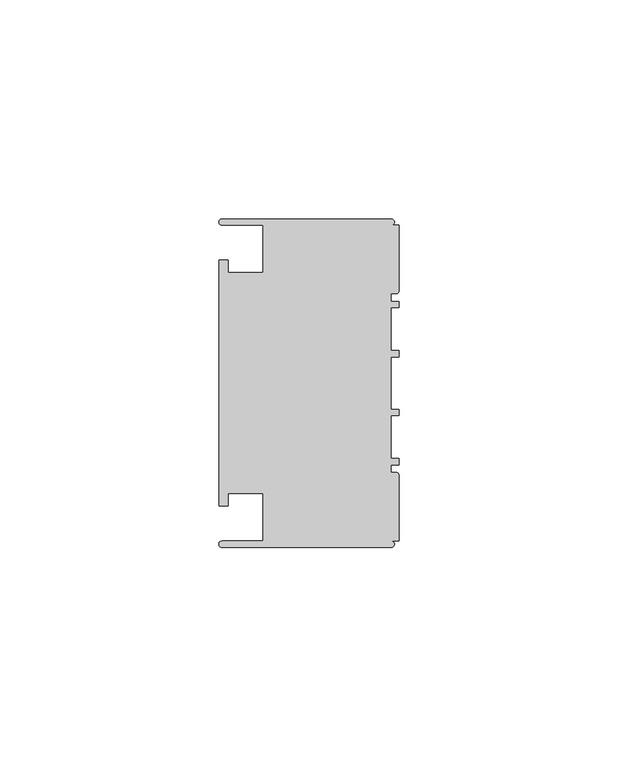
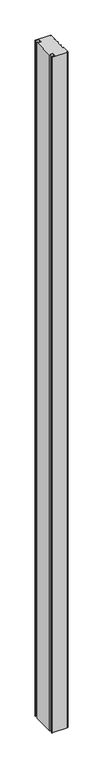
"""IFC4 building model written with IfcOpenShell, lengths in millimetres: member geometry, Прямоугольный импост : 3-AMG-2-Профиль 40Х75 Низ Л."""

from ifc_helpers import new_model, si_unit, point, frame, frame_2d, origin, place, context, project, spatial, polyline, circle_curve, trimmed, segment, composite_curve, outline, extrude, source, transform, mapped, element, save


def member_6fa87f2c(model_context):
    return source(origin(), model_context, "Body", "SweptSolid", [
        extrude(outline(composite_curve([segment(polyline([(-1.7, -37.5), (-40.4, -37.5)]), True, "CONTINUOUS"), segment(trimmed(circle_curve(frame_2d((-40.4, -36.8)), 0.7), [point((-40.4, -37.5))], [point((-40.4, -36.1))], False, "CARTESIAN"), True, "CONTINUOUS"), segment(polyline([(-40.4, -36.1), (-31.0, -36.1), (-31.0, -25.25), (-39.0, -25.25), (-39.0, -28.1), (-41.1, -28.1), (-41.1, 28.1), (-39.0, 28.1), (-39.0, 25.25), (-31.0, 25.25), (-31.0, 36.1), (-40.4, 36.1)]), True, "CONTINUOUS"), segment(trimmed(circle_curve(frame_2d((-40.4, 36.8)), 0.7), [point((-40.4, 36.1))], [point((-40.4, 37.5))], False, "CARTESIAN"), True, "CONTINUOUS"), segment(polyline([(-40.4, 37.5), (-1.7, 37.5)]), True, "CONTINUOUS"), segment(trimmed(circle_curve(frame_2d((-1.7, 36.8)), 0.7), [point((-1.7, 37.5))], [point((-1.7, 36.1))], False, "CARTESIAN"), True, "CONTINUOUS"), segment(polyline([(-1.7, 36.1), (0.0, 36.1), (0.0, 20.95)]), True, "CONTINUOUS"), segment(trimmed(circle_curve(frame_2d((-0.5, 20.95)), 0.5), [point((0.0, 20.95))], [point((-0.5, 20.45))], False, "CARTESIAN"), True, "CONTINUOUS"), segment(polyline([(-0.5, 20.45), (-1.8, 20.45), (-1.8, 18.65), (0.0, 18.65), (0.0, 17.25), (-1.8, 17.25), (-1.8, 7.4), (0.0, 7.4), (0.0, 6.0), (-1.8, 6.0), (-1.8, -6.0), (0.0, -6.0), (0.0, -7.4), (-1.8, -7.4), (-1.8, -17.25), (0.0, -17.25), (0.0, -18.65), (-1.8, -18.65), (-1.8, -20.45), (-0.5, -20.45)]), True, "CONTINUOUS"), segment(trimmed(circle_curve(frame_2d((-0.5, -20.95)), 0.5), [point((-0.5, -20.45))], [point((0.0, -20.95))], False, "CARTESIAN"), True, "CONTINUOUS"), segment(polyline([(0.0, -20.95), (0.0, -36.1), (-1.7, -36.1)]), True, "CONTINUOUS"), segment(trimmed(circle_curve(frame_2d((-1.7, -36.8)), 0.7), [point((-1.7, -36.1))], [point((-1.7, -37.5))], False, "CARTESIAN"), True, "CONTINUOUS")], self_intersect=False)), frame((0.0, 0.0, -1804.7251447), z_axis=(0.0, 0.0, 1.0), x_axis=(1.0, 0.0, 0.0)), (0.0, 0.0, 1.0), 1804.7251447),
    ])


if __name__ == "__main__":
    model = new_model("IFC4")
    model_context = context("Model", 3, world=origin())
    ifc_project = project(units=[si_unit("LENGTHUNIT", "METRE", prefix="MILLI")], contexts=[model_context])
    site = spatial("IfcSite", under=ifc_project)
    building = spatial("IfcBuilding", under=site)
    placement = place(None, origin())
    member_shape = member_6fa87f2c(model_context)
    element("IfcMember", 1, ObjectType="Прямоугольный импост : 3-AMG-2-Профиль 40Х75 Низ Л", at=placement, inside=building, context=model_context, shape_type="MappedRepresentation", body=[
        mapped(member_shape, transform((0.0, 0.0, 0.0), x_axis=(1.0, 0.0, 0.0), y_axis=(0.0, 1.0, 0.0), z_axis=(0.0, 0.0, 1.0))),
    ])
    save(model, "model.ifc")
